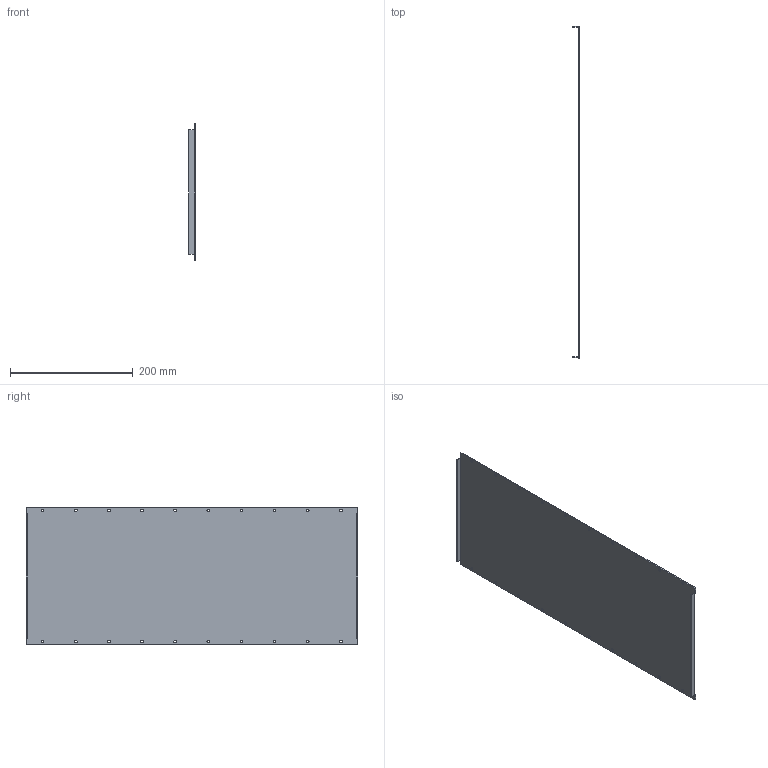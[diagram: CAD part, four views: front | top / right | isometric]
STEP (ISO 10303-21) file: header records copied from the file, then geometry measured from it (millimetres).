
FILE_DESCRIPTION(('CATIA V5 STEP Exchange'),'2;1');
FILE_NAME('C:\Users\Mike\Desktop\blank panels\10MU BLANK PANEL.stp','2018-03-03T21:32:51+00:00',('none'),('none'),'CATIA Version 5 Release 20 GA (IN-10)','CATIA V5 STEP AP214','none');
FILE_SCHEMA(('AUTOMOTIVE_DESIGN { 1 0 10303 214 1 1 1 1 }'));
Length unit declared in the file: millimetre
Products named in the file (1): 10MU BLANK PANEL
Bounding box: 10.16 x 539.5 x 222.25 mm (x, y, z)
Volume: 193626.4 mm3; surface area: 248774.9 mm2
Topology: 1 solids, 1 shells, 66 faces, 192 edges, 128 vertices
Faces by surface type: cylinder 42, plane 20, torus 4
Entity records: 2358 total; most frequent: CARTESIAN_POINT 675, ORIENTED_EDGE 384, DIRECTION 236, EDGE_CURVE 192, VERTEX_POINT 128, EDGE_LOOP 106, AXIS2_PLACEMENT_3D 98, VECTOR 96
